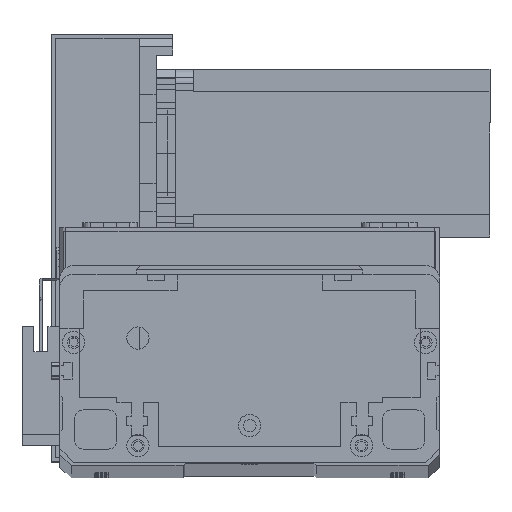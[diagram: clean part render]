
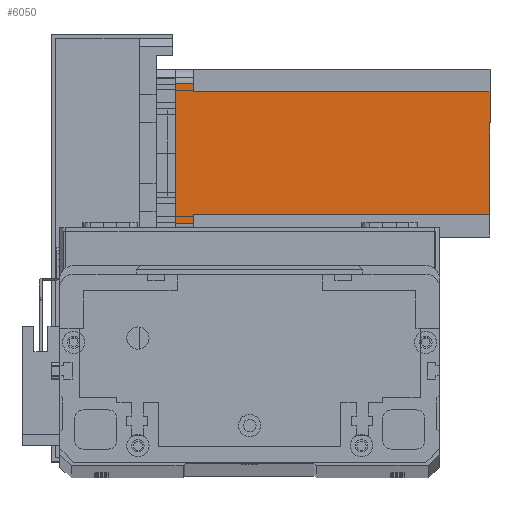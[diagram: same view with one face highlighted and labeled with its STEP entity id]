
A CAD part, top view. The second image highlights one B-rep face of the part: STEP entity #6050.
In plain terms, the highlighted planar face has unit normal (0, 0, 1) as drawn and (0, -1, 0) by its records, which use the part's own axes.
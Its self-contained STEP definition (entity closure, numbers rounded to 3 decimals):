
#13 = DIRECTION ( 'NONE',  ( 0., 0., -1. ) ) ;
#94 = DIRECTION ( 'NONE',  ( 0., -1., 0. ) ) ;
#277 = VERTEX_POINT ( 'NONE', #13719 ) ;
#340 = PLANE ( 'NONE',  #18344 ) ;
#716 = VECTOR ( 'NONE', #9504, 1000. ) ;
#750 = VECTOR ( 'NONE', #17152, 1000. ) ;
#936 = VERTEX_POINT ( 'NONE', #8388 ) ;
#1959 = EDGE_CURVE ( 'NONE', #11340, #277, #28310, .T. ) ;
#2260 = EDGE_CURVE ( 'NONE', #277, #7964, #2738, .T. ) ;
#2262 = CARTESIAN_POINT ( 'NONE',  ( 52., 0., -112.5 ) ) ;
#2738 = LINE ( 'NONE', #27773, #19460 ) ;
#3504 = ORIENTED_EDGE ( 'NONE', *, *, #2260, .T. ) ;
#4953 = CARTESIAN_POINT ( 'NONE',  ( 8., 0., -112.5 ) ) ;
#4987 = EDGE_CURVE ( 'NONE', #23669, #7964, #7190, .T. ) ;
#5037 = ORIENTED_EDGE ( 'NONE', *, *, #13674, .F. ) ;
#5419 = DIRECTION ( 'NONE',  ( 1., 0., 0. ) ) ;
#6050 = ADVANCED_FACE ( 'NONE', ( #28219 ), #340, .T. ) ;
#6719 = LINE ( 'NONE', #26832, #30271 ) ;
#7125 = LINE ( 'NONE', #9671, #716 ) ;
#7157 = LINE ( 'NONE', #17512, #750 ) ;
#7190 = LINE ( 'NONE', #18102, #26072 ) ;
#7280 = ORIENTED_EDGE ( 'NONE', *, *, #12518, .F. ) ;
#7314 = CARTESIAN_POINT ( 'NONE',  ( 52., 0., -6.5 ) ) ;
#7644 = ORIENTED_EDGE ( 'NONE', *, *, #11913, .T. ) ;
#7964 = VERTEX_POINT ( 'NONE', #29264 ) ;
#8388 = CARTESIAN_POINT ( 'NONE',  ( 5., 0., -6.5 ) ) ;
#9258 = EDGE_LOOP ( 'NONE', ( #10951, #3504, #26884, #7644, #7280, #25818, #26168, #5037 ) ) ;
#9504 = DIRECTION ( 'NONE',  ( 1., 0., 0. ) ) ;
#9671 = CARTESIAN_POINT ( 'NONE',  ( 0., 0., -112.5 ) ) ;
#10852 = VERTEX_POINT ( 'NONE', #2262 ) ;
#10951 = ORIENTED_EDGE ( 'NONE', *, *, #1959, .T. ) ;
#11340 = VERTEX_POINT ( 'NONE', #18709 ) ;
#11362 = CARTESIAN_POINT ( 'NONE',  ( 5., 0., 0. ) ) ;
#11913 = EDGE_CURVE ( 'NONE', #23669, #936, #22010, .T. ) ;
#12518 = EDGE_CURVE ( 'NONE', #28425, #936, #7157, .T. ) ;
#12651 = EDGE_CURVE ( 'NONE', #18122, #28425, #21573, .T. ) ;
#12980 = EDGE_CURVE ( 'NONE', #18122, #10852, #7125, .T. ) ;
#13674 = EDGE_CURVE ( 'NONE', #11340, #10852, #6719, .T. ) ;
#13719 = CARTESIAN_POINT ( 'NONE',  ( 55., 0., -6.5 ) ) ;
#14986 = CARTESIAN_POINT ( 'NONE',  ( 8., 0., -112.5 ) ) ;
#15005 = VECTOR ( 'NONE', #5419, 1000. ) ;
#15375 = DIRECTION ( 'NONE',  ( 0., 0., 1. ) ) ;
#15676 = VECTOR ( 'NONE', #27559, 1000. ) ;
#17152 = DIRECTION ( 'NONE',  ( -1., 0., 0. ) ) ;
#17512 = CARTESIAN_POINT ( 'NONE',  ( 8., 0., -6.5 ) ) ;
#18102 = CARTESIAN_POINT ( 'NONE',  ( 0., 0., 0. ) ) ;
#18122 = VERTEX_POINT ( 'NONE', #4953 ) ;
#18344 = AXIS2_PLACEMENT_3D ( 'NONE', #25671, #94, #13 ) ;
#18709 = CARTESIAN_POINT ( 'NONE',  ( 52., 0., -6.5 ) ) ;
#19460 = VECTOR ( 'NONE', #27539, 1000. ) ;
#21573 = LINE ( 'NONE', #14986, #27863 ) ;
#22010 = LINE ( 'NONE', #27892, #15676 ) ;
#23669 = VERTEX_POINT ( 'NONE', #11362 ) ;
#25671 = CARTESIAN_POINT ( 'NONE',  ( 0., 0., -112.5 ) ) ;
#25818 = ORIENTED_EDGE ( 'NONE', *, *, #12651, .F. ) ;
#26072 = VECTOR ( 'NONE', #29879, 1000. ) ;
#26168 = ORIENTED_EDGE ( 'NONE', *, *, #12980, .T. ) ;
#26239 = CARTESIAN_POINT ( 'NONE',  ( 8., 0., -6.5 ) ) ;
#26832 = CARTESIAN_POINT ( 'NONE',  ( 52., 0., -112.5 ) ) ;
#26884 = ORIENTED_EDGE ( 'NONE', *, *, #4987, .F. ) ;
#27539 = DIRECTION ( 'NONE',  ( 0., 0., 1. ) ) ;
#27559 = DIRECTION ( 'NONE',  ( 0., 0., -1. ) ) ;
#27773 = CARTESIAN_POINT ( 'NONE',  ( 55., 0., -112.5 ) ) ;
#27863 = VECTOR ( 'NONE', #15375, 1000. ) ;
#27892 = CARTESIAN_POINT ( 'NONE',  ( 5., 0., -112.5 ) ) ;
#28219 = FACE_OUTER_BOUND ( 'NONE', #9258, .T. ) ;
#28310 = LINE ( 'NONE', #7314, #15005 ) ;
#28425 = VERTEX_POINT ( 'NONE', #26239 ) ;
#28919 = DIRECTION ( 'NONE',  ( 0., 0., -1. ) ) ;
#29264 = CARTESIAN_POINT ( 'NONE',  ( 55., 0., 0. ) ) ;
#29879 = DIRECTION ( 'NONE',  ( 1., 0., 0. ) ) ;
#30271 = VECTOR ( 'NONE', #28919, 1000. ) ;
